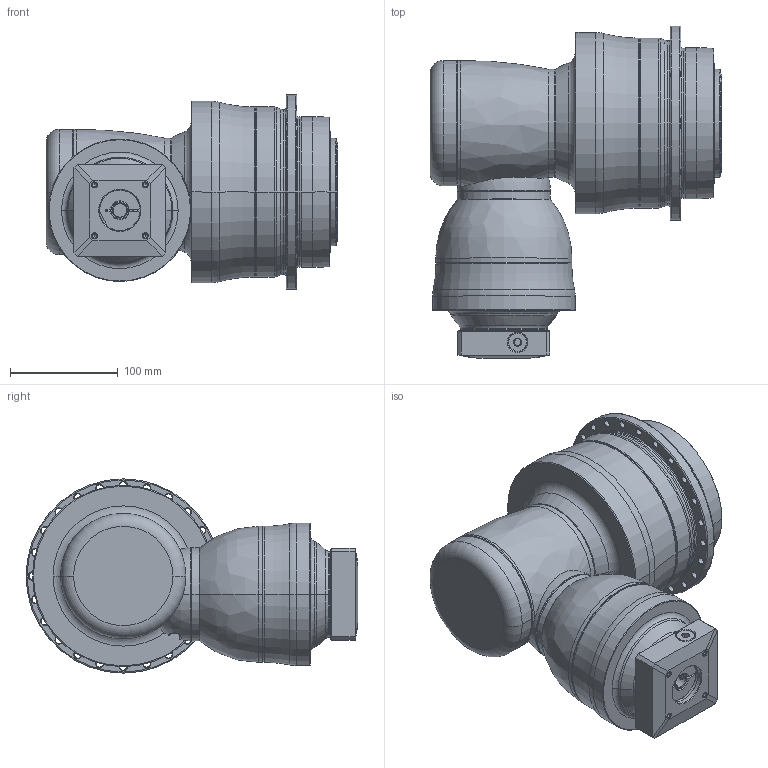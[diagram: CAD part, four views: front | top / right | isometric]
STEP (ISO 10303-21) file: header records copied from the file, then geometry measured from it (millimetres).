
FILE_DESCRIPTION((''),'2;1');
FILE_NAME('APK140_4ST_14-P0409310201_ASM','2018-10-04T',('D00080'),(''),'PRO/ENGINEER BY PARAMETRIC TECHNOLOGY CORPORATION, 2015240','PRO/ENGINEER BY PARAMETRIC TECHNOLOGY CORPORATION, 2015240','');
FILE_SCHEMA(('CONFIG_CONTROL_DESIGN'));
Length unit declared in the file: millimetre
Products named in the file (13): P1008400002; P1832500001; P0278501003; P0359501103; P1211500001; P1315400001; P1007401001; P1317410001; P0503300006; P0912351001; P0409310201; 21711412017; APK140_4ST_14-P0409310201_ASM
Assembly tree (12 placements, depth 2):
  APK140_4ST_14-P0409310201_ASM
    P1008400002
    P1832500001
    P0278501003
    P0359501103
    P1211500001
    P1315400001
    P1007401001
    P1317410001
    P0503300006
    P0912351001
    P0409310201
    21711412017
Bounding box: 270.3 x 307.5 x 180 mm (x, y, z)
Volume: 5142386.8 mm3; surface area: 522677.8 mm2
Topology: 13 solids, 38 shells, 787 faces, 1787 edges, 1072 vertices
Faces by surface type: cylinder 311, cone 220, plane 130, torus 86, bspline 38, sphere 2
Entity records: 27891 total; most frequent: CARTESIAN_POINT 9663, DIRECTION 4173, ORIENTED_EDGE 3384, AXIS2_PLACEMENT_3D 1789, EDGE_CURVE 1743, VERTEX_POINT 1072, CIRCLE 1005, EDGE_LOOP 941
